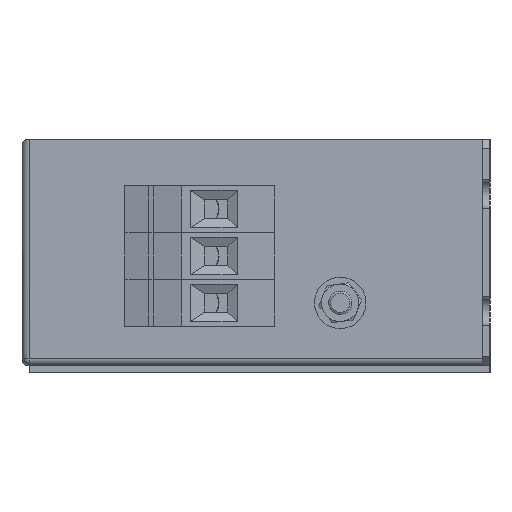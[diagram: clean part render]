
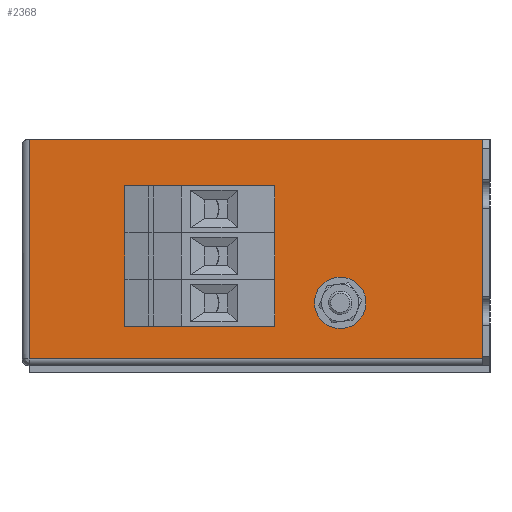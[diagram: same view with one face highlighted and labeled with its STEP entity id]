
A CAD part, left-side view. The second image highlights one B-rep face of the part: STEP entity #2368.
In plain terms, the highlighted planar face has unit normal (-1, 0, 0).
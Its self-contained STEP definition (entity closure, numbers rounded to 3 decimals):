
#167 = CARTESIAN_POINT ( 'NONE',  ( 15., 62., -29.1 ) ) ;
#197 = ORIENTED_EDGE ( 'NONE', *, *, #1025, .F. ) ;
#236 = AXIS2_PLACEMENT_3D ( 'NONE', #6503, #3510, #5906 ) ;
#258 = DIRECTION ( 'NONE',  ( -1., 0., 0. ) ) ;
#320 = CARTESIAN_POINT ( 'NONE',  ( 15., 62., -39.1 ) ) ;
#338 = ORIENTED_EDGE ( 'NONE', *, *, #6521, .F. ) ;
#619 = DIRECTION ( 'NONE',  ( 0., 1., 0. ) ) ;
#651 = EDGE_CURVE ( 'NONE', #4475, #1628, #2747, .T. ) ;
#760 = DIRECTION ( 'NONE',  ( 0., 0., -1. ) ) ;
#762 = AXIS2_PLACEMENT_3D ( 'NONE', #824, #7436, #1454 ) ;
#820 = EDGE_CURVE ( 'NONE', #3654, #7395, #4358, .T. ) ;
#824 = CARTESIAN_POINT ( 'NONE',  ( 15., 62., -35. ) ) ;
#831 = DIRECTION ( 'NONE',  ( 0., 0., -1. ) ) ;
#873 = ORIENTED_EDGE ( 'NONE', *, *, #3610, .F. ) ;
#888 = ORIENTED_EDGE ( 'NONE', *, *, #2550, .F. ) ;
#1025 = EDGE_CURVE ( 'NONE', #7395, #3654, #1840, .T. ) ;
#1067 = AXIS2_PLACEMENT_3D ( 'NONE', #2295, #4687, #3578 ) ;
#1193 = ORIENTED_EDGE ( 'NONE', *, *, #4270, .T. ) ;
#1261 = FACE_BOUND ( 'NONE', #4296, .T. ) ;
#1274 = EDGE_CURVE ( 'NONE', #2411, #1388, #2455, .T. ) ;
#1279 = CARTESIAN_POINT ( 'NONE',  ( 15., 62., -25. ) ) ;
#1301 = ORIENTED_EDGE ( 'NONE', *, *, #1274, .F. ) ;
#1388 = VERTEX_POINT ( 'NONE', #167 ) ;
#1449 = EDGE_LOOP ( 'NONE', ( #873, #1301 ) ) ;
#1454 = DIRECTION ( 'NONE',  ( 0., 0., -1. ) ) ;
#1550 = EDGE_CURVE ( 'NONE', #2054, #4989, #5268, .T. ) ;
#1565 = DIRECTION ( 'NONE',  ( 0., 0., -1. ) ) ;
#1628 = VERTEX_POINT ( 'NONE', #3843 ) ;
#1840 = CIRCLE ( 'NONE', #5590, 4.1 ) ;
#1898 = EDGE_CURVE ( 'NONE', #6615, #7250, #6736, .T. ) ;
#2011 = VECTOR ( 'NONE', #831, 1000. ) ;
#2040 = DIRECTION ( 'NONE',  ( -1., 0., 0. ) ) ;
#2054 = VERTEX_POINT ( 'NONE', #320 ) ;
#2151 = CARTESIAN_POINT ( 'NONE',  ( 15., 32., -35. ) ) ;
#2161 = ORIENTED_EDGE ( 'NONE', *, *, #4235, .F. ) ;
#2200 = CIRCLE ( 'NONE', #3310, 4.1 ) ;
#2260 = CIRCLE ( 'NONE', #6637, 4.1 ) ;
#2291 = VECTOR ( 'NONE', #2666, 1000. ) ;
#2295 = CARTESIAN_POINT ( 'NONE',  ( 15., 32., -35. ) ) ;
#2367 = AXIS2_PLACEMENT_3D ( 'NONE', #2151, #7499, #1565 ) ;
#2368 = ADVANCED_FACE ( 'NONE', ( #6033, #1261, #4856, #3159, #4374 ), #3715, .F. ) ;
#2411 = VERTEX_POINT ( 'NONE', #5677 ) ;
#2455 = CIRCLE ( 'NONE', #6464, 4.1 ) ;
#2507 = CARTESIAN_POINT ( 'NONE',  ( 15., 62., -25. ) ) ;
#2550 = EDGE_CURVE ( 'NONE', #7250, #4186, #5949, .T. ) ;
#2622 = DIRECTION ( 'NONE',  ( -1., 0., 0. ) ) ;
#2666 = DIRECTION ( 'NONE',  ( 0., 0., 1. ) ) ;
#2691 = VECTOR ( 'NONE', #619, 1000. ) ;
#2747 = CIRCLE ( 'NONE', #2367, 2.5 ) ;
#2820 = CARTESIAN_POINT ( 'NONE',  ( 15., 62., -30.9 ) ) ;
#2896 = CARTESIAN_POINT ( 'NONE',  ( 15., 100., -47. ) ) ;
#2907 = VERTEX_POINT ( 'NONE', #4996 ) ;
#2933 = CARTESIAN_POINT ( 'NONE',  ( 15., 1.5, 0. ) ) ;
#3126 = CARTESIAN_POINT ( 'NONE',  ( 15., 100., 0. ) ) ;
#3159 = FACE_BOUND ( 'NONE', #1449, .T. ) ;
#3214 = EDGE_LOOP ( 'NONE', ( #4268, #197 ) ) ;
#3310 = AXIS2_PLACEMENT_3D ( 'NONE', #5094, #2040, #6803 ) ;
#3510 = DIRECTION ( 'NONE',  ( -1., 0., 0. ) ) ;
#3578 = DIRECTION ( 'NONE',  ( 0., 0., -1. ) ) ;
#3610 = EDGE_CURVE ( 'NONE', #1388, #2411, #2260, .T. ) ;
#3654 = VERTEX_POINT ( 'NONE', #4376 ) ;
#3715 = PLANE ( 'NONE',  #5436 ) ;
#3820 = CARTESIAN_POINT ( 'NONE',  ( 15., 62., -10.9 ) ) ;
#3839 = DIRECTION ( 'NONE',  ( 0., 0., -1. ) ) ;
#3843 = CARTESIAN_POINT ( 'NONE',  ( 15., 32., -32.5 ) ) ;
#4186 = VERTEX_POINT ( 'NONE', #6454 ) ;
#4235 = EDGE_CURVE ( 'NONE', #1628, #4475, #4429, .T. ) ;
#4268 = ORIENTED_EDGE ( 'NONE', *, *, #820, .F. ) ;
#4270 = EDGE_CURVE ( 'NONE', #6615, #2907, #7105, .T. ) ;
#4280 = DIRECTION ( 'NONE',  ( -1., 0., 0. ) ) ;
#4296 = EDGE_LOOP ( 'NONE', ( #5123, #2161 ) ) ;
#4358 = CIRCLE ( 'NONE', #236, 4.1 ) ;
#4374 = FACE_BOUND ( 'NONE', #3214, .T. ) ;
#4376 = CARTESIAN_POINT ( 'NONE',  ( 15., 62., -19.1 ) ) ;
#4415 = CARTESIAN_POINT ( 'NONE',  ( 15., 98.5, 0. ) ) ;
#4429 = CIRCLE ( 'NONE', #1067, 2.5 ) ;
#4475 = VERTEX_POINT ( 'NONE', #7177 ) ;
#4687 = DIRECTION ( 'NONE',  ( -1., 0., 0. ) ) ;
#4792 = EDGE_CURVE ( 'NONE', #4186, #2907, #4829, .T. ) ;
#4829 = LINE ( 'NONE', #4415, #2291 ) ;
#4856 = FACE_BOUND ( 'NONE', #7497, .T. ) ;
#4989 = VERTEX_POINT ( 'NONE', #2820 ) ;
#4996 = CARTESIAN_POINT ( 'NONE',  ( 15., 98.5, 0. ) ) ;
#5094 = CARTESIAN_POINT ( 'NONE',  ( 15., 62., -35. ) ) ;
#5123 = ORIENTED_EDGE ( 'NONE', *, *, #651, .F. ) ;
#5190 = VECTOR ( 'NONE', #7147, 1000. ) ;
#5192 = ORIENTED_EDGE ( 'NONE', *, *, #1898, .F. ) ;
#5268 = CIRCLE ( 'NONE', #762, 4.1 ) ;
#5312 = CARTESIAN_POINT ( 'NONE',  ( 15., 100., 0. ) ) ;
#5359 = ORIENTED_EDGE ( 'NONE', *, *, #4792, .F. ) ;
#5436 = AXIS2_PLACEMENT_3D ( 'NONE', #3126, #7231, #5521 ) ;
#5521 = DIRECTION ( 'NONE',  ( 0., 0., -1. ) ) ;
#5590 = AXIS2_PLACEMENT_3D ( 'NONE', #7457, #258, #7413 ) ;
#5677 = CARTESIAN_POINT ( 'NONE',  ( 15., 62., -20.9 ) ) ;
#5906 = DIRECTION ( 'NONE',  ( 0., 0., -1. ) ) ;
#5949 = LINE ( 'NONE', #2896, #5190 ) ;
#6033 = FACE_OUTER_BOUND ( 'NONE', #6883, .T. ) ;
#6198 = CARTESIAN_POINT ( 'NONE',  ( 15., 1.5, 0. ) ) ;
#6454 = CARTESIAN_POINT ( 'NONE',  ( 15., 98.5, -47. ) ) ;
#6464 = AXIS2_PLACEMENT_3D ( 'NONE', #1279, #4280, #760 ) ;
#6503 = CARTESIAN_POINT ( 'NONE',  ( 15., 62., -15. ) ) ;
#6521 = EDGE_CURVE ( 'NONE', #4989, #2054, #2200, .T. ) ;
#6615 = VERTEX_POINT ( 'NONE', #2933 ) ;
#6637 = AXIS2_PLACEMENT_3D ( 'NONE', #2507, #2622, #3839 ) ;
#6736 = LINE ( 'NONE', #6198, #2011 ) ;
#6779 = ORIENTED_EDGE ( 'NONE', *, *, #1550, .F. ) ;
#6803 = DIRECTION ( 'NONE',  ( 0., 0., -1. ) ) ;
#6883 = EDGE_LOOP ( 'NONE', ( #5359, #888, #5192, #1193 ) ) ;
#7105 = LINE ( 'NONE', #5312, #2691 ) ;
#7147 = DIRECTION ( 'NONE',  ( 0., 1., 0. ) ) ;
#7177 = CARTESIAN_POINT ( 'NONE',  ( 15., 32., -37.5 ) ) ;
#7178 = CARTESIAN_POINT ( 'NONE',  ( 15., 1.5, -47. ) ) ;
#7231 = DIRECTION ( 'NONE',  ( 1., 0., 0. ) ) ;
#7250 = VERTEX_POINT ( 'NONE', #7178 ) ;
#7395 = VERTEX_POINT ( 'NONE', #3820 ) ;
#7413 = DIRECTION ( 'NONE',  ( 0., 0., -1. ) ) ;
#7436 = DIRECTION ( 'NONE',  ( -1., 0., 0. ) ) ;
#7457 = CARTESIAN_POINT ( 'NONE',  ( 15., 62., -15. ) ) ;
#7497 = EDGE_LOOP ( 'NONE', ( #6779, #338 ) ) ;
#7499 = DIRECTION ( 'NONE',  ( -1., 0., 0. ) ) ;
